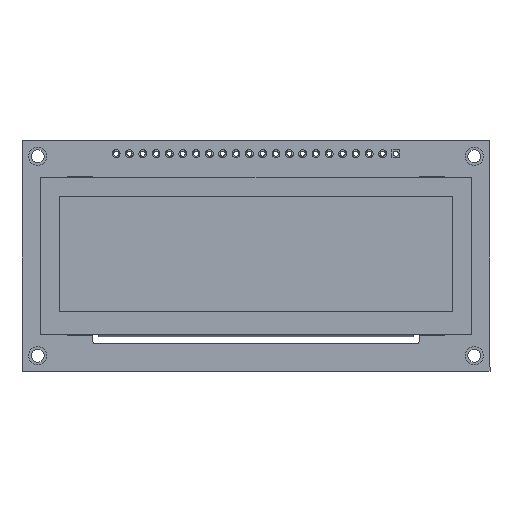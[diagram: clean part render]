
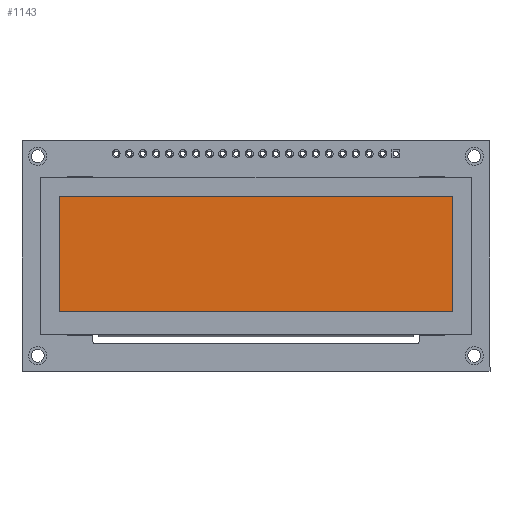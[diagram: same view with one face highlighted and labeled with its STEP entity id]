
A CAD part, top view. The second image highlights one B-rep face of the part: STEP entity #1143.
In plain terms, the highlighted planar face has unit normal (0, 0, 1).
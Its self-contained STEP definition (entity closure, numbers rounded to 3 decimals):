
#524 = DIRECTION ( 'NONE',  ( 1., 0., 0. ) ) ;
#667 = EDGE_CURVE ( 'NONE', #5742, #10902, #12600, .T. ) ;
#907 = CARTESIAN_POINT ( 'NONE',  ( -37.5, 11.4, 2.2 ) ) ;
#1143 = ADVANCED_FACE ( 'NONE', ( #11275 ), #9201, .T. ) ;
#1270 = LINE ( 'NONE', #2539, #3697 ) ;
#1320 = CARTESIAN_POINT ( 'NONE',  ( 37.5, 11.4, 2.2 ) ) ;
#1758 = AXIS2_PLACEMENT_3D ( 'NONE', #4637, #13076, #524 ) ;
#1936 = CARTESIAN_POINT ( 'NONE',  ( -37.5, 11.4, 2.2 ) ) ;
#1962 = VECTOR ( 'NONE', #6079, 1000. ) ;
#2375 = EDGE_CURVE ( 'NONE', #2403, #5742, #3995, .T. ) ;
#2403 = VERTEX_POINT ( 'NONE', #1320 ) ;
#2539 = CARTESIAN_POINT ( 'NONE',  ( 37.5, -10.6, 2.2 ) ) ;
#3429 = ORIENTED_EDGE ( 'NONE', *, *, #667, .T. ) ;
#3503 = CARTESIAN_POINT ( 'NONE',  ( 37.5, 11.4, 2.2 ) ) ;
#3697 = VECTOR ( 'NONE', #8816, 1000. ) ;
#3995 = LINE ( 'NONE', #3503, #11961 ) ;
#4412 = ORIENTED_EDGE ( 'NONE', *, *, #6227, .T. ) ;
#4637 = CARTESIAN_POINT ( 'NONE',  ( 0., 0., 2.2 ) ) ;
#4937 = EDGE_LOOP ( 'NONE', ( #3429, #4412, #12966, #11563 ) ) ;
#5742 = VERTEX_POINT ( 'NONE', #1936 ) ;
#6079 = DIRECTION ( 'NONE',  ( 1., 0., 0. ) ) ;
#6227 = EDGE_CURVE ( 'NONE', #10902, #11660, #7483, .T. ) ;
#7048 = DIRECTION ( 'NONE',  ( 0., -1., 0. ) ) ;
#7053 = VECTOR ( 'NONE', #7048, 1000. ) ;
#7483 = LINE ( 'NONE', #12282, #1962 ) ;
#8574 = CARTESIAN_POINT ( 'NONE',  ( 37.5, -10.6, 2.2 ) ) ;
#8816 = DIRECTION ( 'NONE',  ( 0., 1., 0. ) ) ;
#8937 = EDGE_CURVE ( 'NONE', #11660, #2403, #1270, .T. ) ;
#9201 = PLANE ( 'NONE',  #1758 ) ;
#10780 = DIRECTION ( 'NONE',  ( -1., 0., 0. ) ) ;
#10902 = VERTEX_POINT ( 'NONE', #12540 ) ;
#11275 = FACE_OUTER_BOUND ( 'NONE', #4937, .T. ) ;
#11563 = ORIENTED_EDGE ( 'NONE', *, *, #2375, .T. ) ;
#11660 = VERTEX_POINT ( 'NONE', #8574 ) ;
#11961 = VECTOR ( 'NONE', #10780, 1000. ) ;
#12282 = CARTESIAN_POINT ( 'NONE',  ( -37.5, -10.6, 2.2 ) ) ;
#12540 = CARTESIAN_POINT ( 'NONE',  ( -37.5, -10.6, 2.2 ) ) ;
#12600 = LINE ( 'NONE', #907, #7053 ) ;
#12966 = ORIENTED_EDGE ( 'NONE', *, *, #8937, .T. ) ;
#13076 = DIRECTION ( 'NONE',  ( 0., 0., 1. ) ) ;
